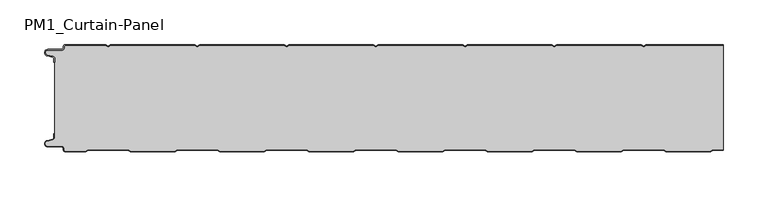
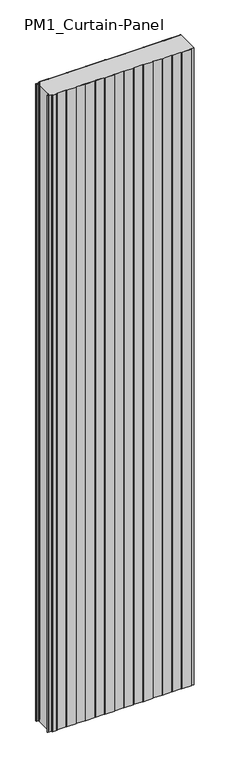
"""IFC4 building model written with IfcOpenShell, lengths in millimetres: plate geometry, PM1_Curtain-Panel : ACH_PM1_Stone-wool-Panel_120M."""

from ifc_helpers import new_model, si_unit, point, frame_2d, origin, origin_with_axes, place, context, project, spatial, polyline, circle_curve, trimmed, segment, composite_curve, outline, extrude, source, transform, mapped, element, save


def pm1_curtain_panel_c46ebac7(model_context):
    return source(origin(), model_context, "Body", "SweptSolid", [
        extrude(outline(composite_curve([segment(trimmed(circle_curve(frame_2d((-377.0, -15.878557)), 2.0), [point((-375.0, -15.878557))], [point((-376.5500978, -13.9298169))], True, "CARTESIAN"), True, "CONTINUOUS"), segment(polyline([(-376.5500978, -13.9298169), (-382.7098239, -12.507732)]), True, "CONTINUOUS"), segment(trimmed(circle_curve(frame_2d((-381.9, -9.0)), 3.6), [point((-382.7098239, -12.507732))], [point((-381.9, -5.4))], False, "CARTESIAN"), True, "CONTINUOUS"), segment(polyline([(-381.9, -5.4), (-366.4, -5.4)]), True, "CONTINUOUS"), segment(trimmed(circle_curve(frame_2d((-366.4, -3.4)), 2.0), [point((-366.4, -5.4))], [point((-364.4, -3.4))], True, "CARTESIAN"), True, "CONTINUOUS"), segment(polyline([(-364.4, -3.4), (-364.4, -2.0)]), True, "CONTINUOUS"), segment(trimmed(circle_curve(frame_2d((-362.4, -2.0)), 2.0), [point((-364.4, -2.0))], [point((-362.4, 0.0))], False, "CARTESIAN"), True, "CONTINUOUS"), segment(polyline([(-362.4, 0.0), (-317.0999995, 0.0), (-314.4, -1.5588455), (-311.7000005, 0.0), (-217.0999995, 0.0), (-214.4, -1.5588455), (-211.7000005, 0.0), (-117.0999995, 0.0), (-114.4, -1.5588455), (-111.7000005, 0.0), (-17.0999995, 0.0), (-14.4, -1.5588455), (-11.7000005, 0.0), (82.9000005, 0.0), (85.6, -1.5588455), (88.2999995, 0.0), (182.9000005, 0.0), (185.6, -1.5588455), (188.2999995, 0.0), (282.9000005, 0.0), (285.6, -1.5588455), (288.2999995, 0.0), (375.0, 0.0), (375.0, -0.8), (288.5143588, -0.8), (285.6, -2.482606), (282.6856412, -0.8), (188.5143588, -0.8), (185.6, -2.482606), (182.6856412, -0.8), (88.5143588, -0.8), (85.6, -2.482606), (82.6856412, -0.8), (-11.4856412, -0.8), (-14.4, -2.482606), (-17.3143588, -0.8), (-111.4856412, -0.8), (-114.4, -2.482606), (-117.3143588, -0.8), (-211.4856412, -0.8), (-214.4, -2.482606), (-217.3143588, -0.8), (-311.4856412, -0.8), (-314.4, -2.482606), (-317.3143588, -0.8), (-362.4, -0.8)]), True, "CONTINUOUS"), segment(trimmed(circle_curve(frame_2d((-362.4, -2.0)), 1.2), [point((-362.4, -0.8))], [point((-363.6, -2.0))], True, "CARTESIAN"), True, "CONTINUOUS"), segment(polyline([(-363.6, -2.0), (-363.6, -3.4)]), True, "CONTINUOUS"), segment(trimmed(circle_curve(frame_2d((-366.4, -3.4)), 2.8), [point((-363.6, -3.4))], [point((-366.4, -6.2))], False, "CARTESIAN"), True, "CONTINUOUS"), segment(polyline([(-366.4, -6.2), (-381.9, -6.2)]), True, "CONTINUOUS"), segment(trimmed(circle_curve(frame_2d((-381.9, -9.0)), 2.8), [point((-381.9, -6.2))], [point((-382.529863, -11.7282362))], True, "CARTESIAN"), True, "CONTINUOUS"), segment(polyline([(-382.529863, -11.7282362), (-376.370137, -13.150321)]), True, "CONTINUOUS"), segment(trimmed(circle_curve(frame_2d((-377.0, -15.878557)), 2.8), [point((-376.370137, -13.150321))], [point((-374.2, -15.878557))], False, "CARTESIAN"), True, "CONTINUOUS"), segment(polyline([(-374.2, -15.878557), (-374.2, -20.0), (-375.0, -20.0), (-375.0, -15.878557)]), True, "CONTINUOUS")], self_intersect=False)), origin_with_axes(), (0.0, 0.0, 1.0), 3500.0),
        extrude(outline(composite_curve([segment(polyline([(-374.2, -104.121443), (-374.2, -15.8785573)]), True, "CONTINUOUS"), segment(trimmed(circle_curve(frame_2d((-377.0, -15.8785573)), 2.8), [point((-374.2, -15.8785573))], [point((-376.370137, -13.1503212))], True, "CARTESIAN"), True, "CONTINUOUS"), segment(polyline([(-376.370137, -13.1503212), (-382.5298631, -11.7282362)]), True, "CONTINUOUS"), segment(trimmed(circle_curve(frame_2d((-381.9, -9.0)), 2.8), [point((-382.5298631, -11.7282362))], [point((-381.9, -6.2))], False, "CARTESIAN"), True, "CONTINUOUS"), segment(polyline([(-381.9, -6.2), (-366.4000001, -6.2)]), True, "CONTINUOUS"), segment(trimmed(circle_curve(frame_2d((-366.4000001, -3.4)), 2.8), [point((-366.4000001, -6.2))], [point((-363.6000001, -3.4))], True, "CARTESIAN"), True, "CONTINUOUS"), segment(polyline([(-363.6000001, -3.4), (-363.6000001, -2.0)]), True, "CONTINUOUS"), segment(trimmed(circle_curve(frame_2d((-362.4000001, -2.0)), 1.2), [point((-363.6000001, -2.0))], [point((-362.4000001, -0.8))], False, "CARTESIAN"), True, "CONTINUOUS"), segment(polyline([(-362.4000001, -0.8), (-317.3143589, -0.8), (-314.4000001, -2.482606), (-311.4856412, -0.8), (-217.3143589, -0.8), (-214.4000001, -2.482606), (-211.4856412, -0.8), (-117.3143589, -0.8), (-114.4000001, -2.482606), (-111.4856412, -0.8), (-17.3143589, -0.8), (-14.4000001, -2.482606), (-11.4856412, -0.8), (82.6856411, -0.8), (85.5999999, -2.482606), (88.5143588, -0.8), (182.6856411, -0.8), (185.5999999, -2.482606), (188.5143588, -0.8), (282.6856411, -0.8), (285.5999999, -2.482606), (288.5143588, -0.8), (375.0, -0.8), (375.0, -117.7), (362.9837184, -117.7), (360.3856408, -119.2), (310.8105122, -119.2), (308.2124346, -117.7), (262.9837184, -117.7), (260.3856408, -119.2), (210.8105122, -119.2), (208.2124346, -117.7), (162.9837184, -117.7), (160.3856408, -119.2), (110.8105122, -119.2), (108.2124346, -117.7), (62.9837184, -117.7), (60.3856408, -119.2), (10.8105122, -119.2), (8.2124346, -117.7), (-37.0162816, -117.7), (-39.6143592, -119.2), (-89.1894878, -119.2), (-91.7875654, -117.7), (-137.0162816, -117.7), (-139.6143592, -119.2), (-189.1894878, -119.2), (-191.7875654, -117.7), (-237.0162816, -117.7), (-239.6143592, -119.2), (-289.1894878, -119.2), (-291.7875654, -117.7), (-337.0162816, -117.7), (-339.6143592, -119.2), (-362.4, -119.2)]), True, "CONTINUOUS"), segment(trimmed(circle_curve(frame_2d((-362.4, -118.0)), 1.2), [point((-362.4, -119.2))], [point((-363.6, -118.0))], False, "CARTESIAN"), True, "CONTINUOUS"), segment(polyline([(-363.6, -118.0), (-363.6, -116.5999998)]), True, "CONTINUOUS"), segment(trimmed(circle_curve(frame_2d((-366.4, -116.5999998)), 2.8), [point((-363.6, -116.5999998))], [point((-366.4, -113.7999998))], True, "CARTESIAN"), True, "CONTINUOUS"), segment(polyline([(-366.4, -113.7999998), (-381.9, -113.7999998)]), True, "CONTINUOUS"), segment(trimmed(circle_curve(frame_2d((-381.9, -111.0)), 2.7999998), [point((-381.9, -113.7999998))], [point((-382.529863, -108.271764))], False, "CARTESIAN"), True, "CONTINUOUS"), segment(polyline([(-382.529863, -108.271764), (-376.370137, -106.8496792)]), True, "CONTINUOUS"), segment(trimmed(circle_curve(frame_2d((-377.0, -104.121443)), 2.8), [point((-376.370137, -106.8496792))], [point((-374.2, -104.121443))], True, "CARTESIAN"), True, "CONTINUOUS")], self_intersect=False)), origin_with_axes(), (0.0, 0.0, 1.0), 3500.0),
        extrude(outline(composite_curve([segment(trimmed(circle_curve(frame_2d((-362.4, -118.0)), 2.0), [point((-362.4, -120.0))], [point((-364.4, -118.0))], False, "CARTESIAN"), True, "CONTINUOUS"), segment(polyline([(-364.4, -118.0), (-364.4, -116.6)]), True, "CONTINUOUS"), segment(trimmed(circle_curve(frame_2d((-366.4, -116.6)), 2.0), [point((-364.4, -116.6))], [point((-366.4, -114.6))], True, "CARTESIAN"), True, "CONTINUOUS"), segment(polyline([(-366.4, -114.6), (-381.9, -114.6)]), True, "CONTINUOUS"), segment(trimmed(circle_curve(frame_2d((-381.9, -111.0)), 3.6), [point((-381.9, -114.6))], [point((-382.7098239, -107.4922678))], False, "CARTESIAN"), True, "CONTINUOUS"), segment(polyline([(-382.7098239, -107.4922678), (-376.5500979, -106.070183)]), True, "CONTINUOUS"), segment(trimmed(circle_curve(frame_2d((-377.0, -104.121443)), 2.0), [point((-376.5500979, -106.070183))], [point((-375.0, -104.121443))], True, "CARTESIAN"), True, "CONTINUOUS"), segment(polyline([(-375.0, -104.121443), (-375.0, -100.0), (-374.2, -100.0), (-374.2, -104.121443)]), True, "CONTINUOUS"), segment(trimmed(circle_curve(frame_2d((-377.0, -104.121443)), 2.8), [point((-374.2, -104.121443))], [point((-376.370137, -106.8496792))], False, "CARTESIAN"), True, "CONTINUOUS"), segment(polyline([(-376.370137, -106.8496792), (-382.529863, -108.271764)]), True, "CONTINUOUS"), segment(trimmed(circle_curve(frame_2d((-381.9, -111.0)), 2.8), [point((-382.529863, -108.271764))], [point((-381.9, -113.8))], True, "CARTESIAN"), True, "CONTINUOUS"), segment(polyline([(-381.9, -113.8), (-366.4, -113.8)]), True, "CONTINUOUS"), segment(trimmed(circle_curve(frame_2d((-366.4, -116.6)), 2.8), [point((-366.4, -113.8))], [point((-363.6, -116.6))], False, "CARTESIAN"), True, "CONTINUOUS"), segment(polyline([(-363.6, -116.6), (-363.6, -118.0)]), True, "CONTINUOUS"), segment(trimmed(circle_curve(frame_2d((-362.4, -118.0)), 1.2), [point((-363.6, -118.0))], [point((-362.4, -119.2))], True, "CARTESIAN"), True, "CONTINUOUS"), segment(polyline([(-362.4, -119.2), (-339.6143592, -119.2), (-337.0162816, -117.7), (-291.7875654, -117.7), (-289.1894878, -119.2), (-239.6143592, -119.2), (-237.0162816, -117.7), (-191.7875654, -117.7), (-189.1894878, -119.2), (-139.6143592, -119.2), (-137.0162816, -117.7), (-91.7875654, -117.7), (-89.1894878, -119.2), (-39.6143592, -119.2), (-37.0162816, -117.7), (8.2124346, -117.7), (10.8105122, -119.2), (60.3856408, -119.2), (62.9837184, -117.7), (108.2124346, -117.7), (110.8105122, -119.2), (160.3856408, -119.2), (162.9837184, -117.7), (208.2124346, -117.7), (210.8105122, -119.2), (260.3856408, -119.2), (262.9837184, -117.7), (308.2124346, -117.7), (310.8105122, -119.2), (360.3856408, -119.2), (362.9837184, -117.7), (375.0, -117.7), (375.0, -118.5), (363.1980777, -118.5), (360.6000001, -120.0), (310.5961529, -120.0), (307.9980753, -118.5), (263.1980777, -118.5), (260.6000001, -120.0), (210.5961529, -120.0), (207.9980753, -118.5), (163.1980777, -118.5), (160.6000001, -120.0), (110.5961529, -120.0), (107.9980753, -118.5), (63.1980777, -118.5), (60.6000001, -120.0), (10.5961529, -120.0), (7.9980753, -118.5), (-36.8019223, -118.5), (-39.3999999, -120.0), (-89.4038471, -120.0), (-92.0019247, -118.5), (-136.8019223, -118.5), (-139.3999999, -120.0), (-189.4038471, -120.0), (-192.0019247, -118.5), (-236.8019223, -118.5), (-239.3999999, -120.0), (-289.4038471, -120.0), (-292.0019247, -118.5), (-336.8019223, -118.5), (-339.3999999, -120.0), (-362.4, -120.0)]), True, "CONTINUOUS")], self_intersect=False)), origin_with_axes(), (0.0, 0.0, 1.0), 3500.0),
    ])


if __name__ == "__main__":
    model = new_model("IFC4")
    model_context = context("Model", 3, world=origin())
    ifc_project = project(units=[si_unit("LENGTHUNIT", "METRE", prefix="MILLI")], contexts=[model_context])
    site = spatial("IfcSite", under=ifc_project)
    building = spatial("IfcBuilding", under=site)
    placement = place(None, origin())
    pm1_curtain_panel_shape = pm1_curtain_panel_c46ebac7(model_context)
    element("IfcPlate", 1, ObjectType="PM1_Curtain-Panel : ACH_PM1_Stone-wool-Panel_120M", at=placement, inside=building, context=model_context, shape_type="MappedRepresentation", body=[
        mapped(pm1_curtain_panel_shape, transform((0.0, 0.0, 0.0), x_axis=(1.0, 0.0, 0.0), y_axis=(0.0, 1.0, 0.0), z_axis=(0.0, 0.0, 1.0))),
    ])
    save(model, "model.ifc")
